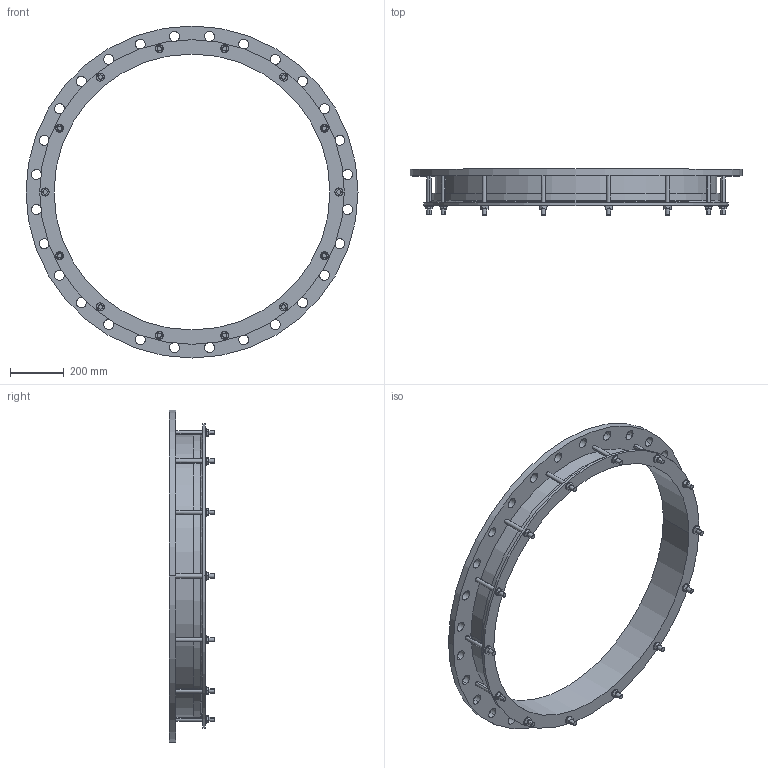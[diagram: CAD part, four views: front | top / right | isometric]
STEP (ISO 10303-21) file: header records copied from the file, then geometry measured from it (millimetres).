
FILE_DESCRIPTION((''),'2;1');
FILE_NAME('1019X1000PN10','2019-01-17T',('mfairey'),('Glynwed Pipe Systems'),'CREO PARAMETRIC BY PTC INC, 2016130','CREO PARAMETRIC BY PTC INC, 2016130','');
FILE_SCHEMA(('CONFIG_CONTROL_DESIGN'));
Length unit declared in the file: millimetre
Products named in the file (1): 1019X1000PN10
Bounding box: 1230 x 169 x 1230 mm (x, y, z)
Volume: 15696395.3 mm3; surface area: 2007874.8 mm2
Topology: 1 solids, 1 shells, 284 faces, 752 edges, 500 vertices
Faces by surface type: cylinder 148, plane 130, cone 4, torus 2
Entity records: 10042 total; most frequent: CARTESIAN_POINT 2596, DIRECTION 1548, ORIENTED_EDGE 1504, EDGE_CURVE 752, AXIS2_PLACEMENT_3D 572, VERTEX_POINT 500, VECTOR 404, LINE 404
